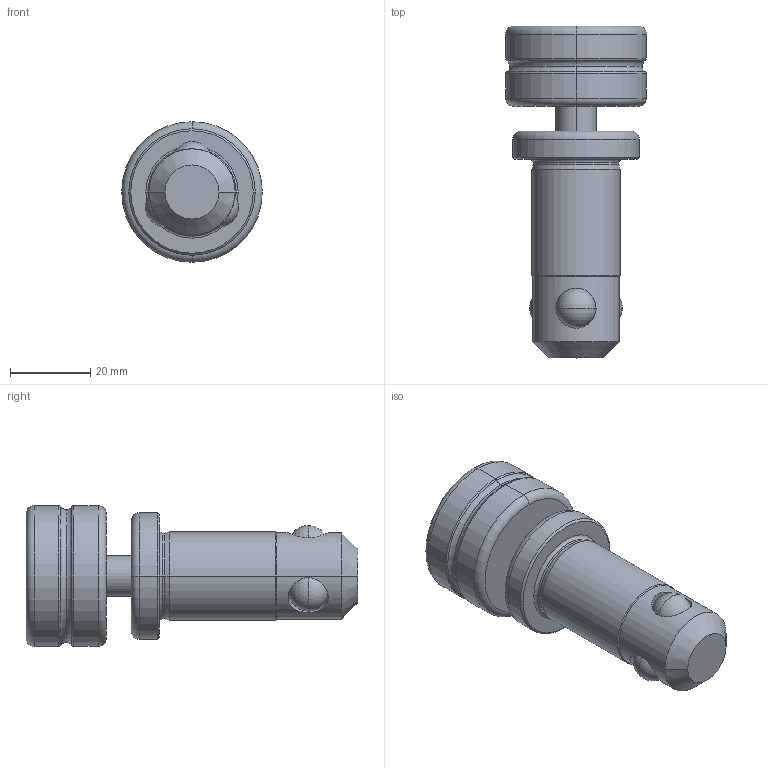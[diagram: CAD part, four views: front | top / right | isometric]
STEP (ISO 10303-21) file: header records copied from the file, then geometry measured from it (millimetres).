
FILE_DESCRIPTION (( 'STEP AP203' ), '1' );
FILE_NAME ('220511.STEP', '2020-08-19T07:19:03', ( '' ), ( '' ), 'SwSTEP 2.0', 'SolidWorks 2019', '' );
FILE_SCHEMA (( 'CONFIG_CONTROL_DESIGN' ));
Length unit declared in the file: millimetre
Products named in the file (6): DIN 915 - M10 x 55-C- br黱iert_DIN 915 - M10 x 55-C- br乶iert; Kugel 9,9; 220511_Drehteil; Kopf^220510.1_Gewindespindel; 220510.1_Gewindespindel; 220511
Assembly tree (7 placements, depth 3):
  220511
    220511_Drehteil
    220510.1_Gewindespindel
      Kopf^220510.1_Gewindespindel
      DIN 915 - M10 x 55-C- br黱iert_DIN 915 - M10 x 55-C- br乶iert
    Kugel 9,9  x3
Bounding box: 35 x 82.67 x 35 mm (x, y, z)
Volume: 43762.9 mm3; surface area: 13079.9 mm2
Topology: 6 solids, 6 shells, 79 faces, 173 edges, 102 vertices
Faces by surface type: cylinder 26, torus 18, plane 15, cone 14, sphere 6
Entity records: 2889 total; most frequent: CARTESIAN_POINT 572, DIRECTION 398, ORIENTED_EDGE 308, AXIS2_PLACEMENT_3D 170, EDGE_CURVE 154, VERTEX_POINT 89, CIRCLE 84, EDGE_LOOP 83
